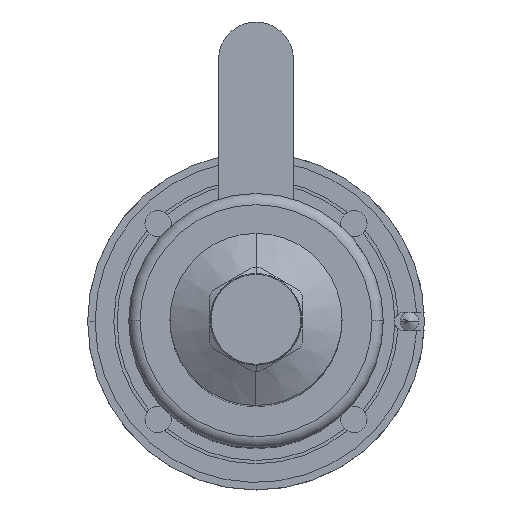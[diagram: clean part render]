
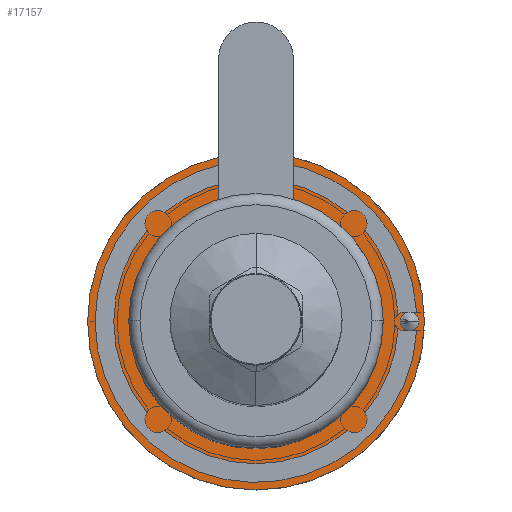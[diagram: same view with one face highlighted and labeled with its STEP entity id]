
A CAD part, top view. The second image highlights one B-rep face of the part: STEP entity #17157.
In plain terms, the highlighted planar face has unit normal (0, 0, 1).
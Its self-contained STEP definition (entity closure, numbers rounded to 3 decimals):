
#321 = EDGE_LOOP ( 'NONE', ( #7938, #7939, #7940, #7941, #7942, #7943, #7944, #7945 ) ) ;
#419 = EDGE_LOOP ( 'NONE', ( #7946, #7947 ) ) ;
#1092 = VERTEX_POINT ( 'NONE', #2854 ) ;
#1115 = VERTEX_POINT ( 'NONE', #2811 ) ;
#1120 = VERTEX_POINT ( 'NONE', #2802 ) ;
#1121 = VERTEX_POINT ( 'NONE', #2800 ) ;
#1126 = VERTEX_POINT ( 'NONE', #2790 ) ;
#1131 = VERTEX_POINT ( 'NONE', #2782 ) ;
#1132 = VERTEX_POINT ( 'NONE', #2781 ) ;
#1146 = VERTEX_POINT ( 'NONE', #2760 ) ;
#1162 = VERTEX_POINT ( 'NONE', #2731 ) ;
#1163 = VERTEX_POINT ( 'NONE', #2729 ) ;
#1308 = EDGE_CURVE ( 'NONE', #1120, #1132, #19093, .T. ) ;
#1309 = EDGE_CURVE ( 'NONE', #1092, #1121, #19090, .T. ) ;
#1311 = EDGE_CURVE ( 'NONE', #1115, #1121, #19088, .T. ) ;
#1314 = EDGE_CURVE ( 'NONE', #1163, #1146, #19081, .T. ) ;
#1315 = EDGE_CURVE ( 'NONE', #1162, #1126, #19076, .T. ) ;
#1774 = AXIS2_PLACEMENT_3D ( 'NONE', #2414, #2411, #2410 ) ;
#1775 = AXIS2_PLACEMENT_3D ( 'NONE', #2440, #2439, #2437 ) ;
#1776 = AXIS2_PLACEMENT_3D ( 'NONE', #2444, #2443, #2442 ) ;
#2410 = DIRECTION ( 'NONE',  ( -1., 0., 0. ) ) ;
#2411 = DIRECTION ( 'NONE',  ( 0., 0., -1. ) ) ;
#2414 = CARTESIAN_POINT ( 'NONE',  ( 0., 0., 18. ) ) ;
#2417 = DIRECTION ( 'NONE',  ( 0., -1., 0. ) ) ;
#2419 = CARTESIAN_POINT ( 'NONE',  ( 10., 0., 18. ) ) ;
#2431 = DIRECTION ( 'NONE',  ( 0., 1., 0. ) ) ;
#2432 = CARTESIAN_POINT ( 'NONE',  ( -10., 0., 18. ) ) ;
#2437 = DIRECTION ( 'NONE',  ( -1., 0., 0. ) ) ;
#2439 = DIRECTION ( 'NONE',  ( 0., 0., -1. ) ) ;
#2440 = CARTESIAN_POINT ( 'NONE',  ( 0., 0., 18. ) ) ;
#2442 = DIRECTION ( 'NONE',  ( -1., 0., 0. ) ) ;
#2443 = DIRECTION ( 'NONE',  ( 0., 0., 1. ) ) ;
#2444 = CARTESIAN_POINT ( 'NONE',  ( 41., 0., 18. ) ) ;
#2729 = CARTESIAN_POINT ( 'NONE',  ( 10., 43.875, 18. ) ) ;
#2731 = CARTESIAN_POINT ( 'NONE',  ( 34., 0., 18. ) ) ;
#2760 = CARTESIAN_POINT ( 'NONE',  ( 10., 32.496, 18. ) ) ;
#2781 = CARTESIAN_POINT ( 'NONE',  ( 43.5, 0., 18. ) ) ;
#2782 = CARTESIAN_POINT ( 'NONE',  ( 45., 0., 18. ) ) ;
#2790 = CARTESIAN_POINT ( 'NONE',  ( -34., 0., 18. ) ) ;
#2800 = CARTESIAN_POINT ( 'NONE',  ( -10., 43.875, 18. ) ) ;
#2802 = CARTESIAN_POINT ( 'NONE',  ( 38.5, 0., 18. ) ) ;
#2811 = CARTESIAN_POINT ( 'NONE',  ( -10., 32.496, 18. ) ) ;
#2854 = CARTESIAN_POINT ( 'NONE',  ( -45., 0., 18. ) ) ;
#4012 = EDGE_CURVE ( 'NONE', #1146, #1162, #18549, .T. ) ;
#4016 = EDGE_CURVE ( 'NONE', #1126, #1115, #18542, .T. ) ;
#4018 = EDGE_CURVE ( 'NONE', #1163, #1131, #18532, .T. ) ;
#4022 = EDGE_CURVE ( 'NONE', #1131, #1092, #18527, .T. ) ;
#4025 = EDGE_CURVE ( 'NONE', #1132, #1120, #18523, .T. ) ;
#5970 = FACE_OUTER_BOUND ( 'NONE', #321, .T. ) ;
#5971 = FACE_BOUND ( 'NONE', #419, .T. ) ;
#7938 = ORIENTED_EDGE ( 'NONE', *, *, #4018, .F. ) ;
#7939 = ORIENTED_EDGE ( 'NONE', *, *, #1314, .T. ) ;
#7940 = ORIENTED_EDGE ( 'NONE', *, *, #4012, .T. ) ;
#7941 = ORIENTED_EDGE ( 'NONE', *, *, #1315, .T. ) ;
#7942 = ORIENTED_EDGE ( 'NONE', *, *, #4016, .T. ) ;
#7943 = ORIENTED_EDGE ( 'NONE', *, *, #1311, .T. ) ;
#7944 = ORIENTED_EDGE ( 'NONE', *, *, #1309, .F. ) ;
#7945 = ORIENTED_EDGE ( 'NONE', *, *, #4022, .F. ) ;
#7946 = ORIENTED_EDGE ( 'NONE', *, *, #4025, .F. ) ;
#7947 = ORIENTED_EDGE ( 'NONE', *, *, #1308, .F. ) ;
#12398 = DIRECTION ( 'NONE',  ( -1., 0., 0. ) ) ;
#12400 = DIRECTION ( 'NONE',  ( 0., 0., 1. ) ) ;
#12403 = CARTESIAN_POINT ( 'NONE',  ( 41., 0., 18. ) ) ;
#12416 = DIRECTION ( 'NONE',  ( -1., 0., 0. ) ) ;
#12417 = DIRECTION ( 'NONE',  ( 0., 0., -1. ) ) ;
#12419 = CARTESIAN_POINT ( 'NONE',  ( 0., 0., 18. ) ) ;
#12440 = DIRECTION ( 'NONE',  ( -1., 0., 0. ) ) ;
#12442 = DIRECTION ( 'NONE',  ( 0., 0., -1. ) ) ;
#12446 = CARTESIAN_POINT ( 'NONE',  ( 0., 0., 18. ) ) ;
#12456 = DIRECTION ( 'NONE',  ( -1., 0., 0. ) ) ;
#12457 = DIRECTION ( 'NONE',  ( 0., 0., -1. ) ) ;
#12458 = CARTESIAN_POINT ( 'NONE',  ( 0., 0., 18. ) ) ;
#12472 = DIRECTION ( 'NONE',  ( -1., 0., 0. ) ) ;
#12473 = DIRECTION ( 'NONE',  ( 0., 0., -1. ) ) ;
#12474 = CARTESIAN_POINT ( 'NONE',  ( 0., 0., 18. ) ) ;
#15461 = AXIS2_PLACEMENT_3D ( 'NONE', #17536, #17535, #17534 ) ;
#16711 = AXIS2_PLACEMENT_3D ( 'NONE', #12474, #12473, #12472 ) ;
#16810 = AXIS2_PLACEMENT_3D ( 'NONE', #12446, #12442, #12440 ) ;
#16811 = AXIS2_PLACEMENT_3D ( 'NONE', #12403, #12400, #12398 ) ;
#16817 = AXIS2_PLACEMENT_3D ( 'NONE', #12419, #12417, #12416 ) ;
#16823 = AXIS2_PLACEMENT_3D ( 'NONE', #12458, #12457, #12456 ) ;
#17157 = ADVANCED_FACE ( 'NONE', ( #5970, #5971 ), #17537, .F. ) ;
#17534 = DIRECTION ( 'NONE',  ( -1., 0., 0. ) ) ;
#17535 = DIRECTION ( 'NONE',  ( 0., 0., -1. ) ) ;
#17536 = CARTESIAN_POINT ( 'NONE',  ( -45., 0., 18. ) ) ;
#17537 = PLANE ( 'NONE',  #15461 ) ;
#18523 = CIRCLE ( 'NONE', #16811, 2.5 ) ;
#18527 = CIRCLE ( 'NONE', #16817, 45. ) ;
#18532 = CIRCLE ( 'NONE', #16810, 45. ) ;
#18542 = CIRCLE ( 'NONE', #16823, 34. ) ;
#18549 = CIRCLE ( 'NONE', #16711, 34. ) ;
#19076 = CIRCLE ( 'NONE', #1774, 34. ) ;
#19078 = VECTOR ( 'NONE', #2417, 1000. ) ;
#19081 = LINE ( 'NONE', #2419, #19078 ) ;
#19086 = VECTOR ( 'NONE', #2431, 1000. ) ;
#19088 = LINE ( 'NONE', #2432, #19086 ) ;
#19090 = CIRCLE ( 'NONE', #1775, 45. ) ;
#19093 = CIRCLE ( 'NONE', #1776, 2.5 ) ;
